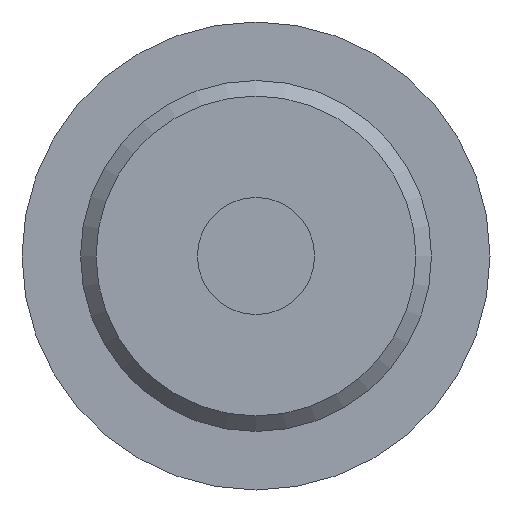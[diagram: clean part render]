
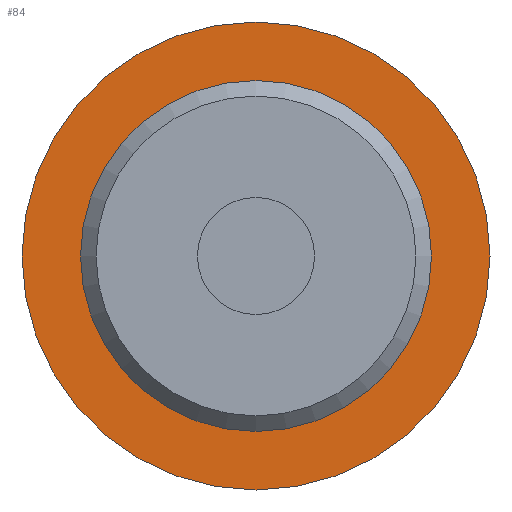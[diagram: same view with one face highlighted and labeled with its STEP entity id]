
A CAD part, front view. The second image highlights one B-rep face of the part: STEP entity #84.
In plain terms, the highlighted planar face has unit normal (0, -1, 0).
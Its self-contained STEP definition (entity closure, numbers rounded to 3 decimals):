
#84 = ADVANCED_FACE( '', ( #132, #133 ), #134, .F. );
#132 = FACE_BOUND( '', #220, .T. );
#133 = FACE_OUTER_BOUND( '', #221, .T. );
#134 = PLANE( '', #222 );
#220 = EDGE_LOOP( '', ( #338 ) );
#221 = EDGE_LOOP( '', ( #339 ) );
#222 = AXIS2_PLACEMENT_3D( '', #340, #341, #342 );
#338 = ORIENTED_EDGE( '', *, *, #520, .F. );
#339 = ORIENTED_EDGE( '', *, *, #521, .T. );
#340 = CARTESIAN_POINT( '', ( 12., 0., 0. ) );
#341 = DIRECTION( '', ( 0., 1., 0. ) );
#342 = DIRECTION( '', ( 0., 0., 1. ) );
#520 = EDGE_CURVE( '', #596, #596, #597, .T. );
#521 = EDGE_CURVE( '', #598, #598, #599, .T. );
#596 = VERTEX_POINT( '', #725 );
#597 = CIRCLE( '', #726, 9. );
#598 = VERTEX_POINT( '', #727 );
#599 = CIRCLE( '', #728, 12. );
#725 = CARTESIAN_POINT( '', ( 0., 0., -9. ) );
#726 = AXIS2_PLACEMENT_3D( '', #824, #825, #826 );
#727 = CARTESIAN_POINT( '', ( 0., 0., -12. ) );
#728 = AXIS2_PLACEMENT_3D( '', #827, #828, #829 );
#824 = CARTESIAN_POINT( '', ( 0., 0., 0. ) );
#825 = DIRECTION( '', ( 0., -1., 0. ) );
#826 = DIRECTION( '', ( 0., 0., -1. ) );
#827 = CARTESIAN_POINT( '', ( 0., 0., 0. ) );
#828 = DIRECTION( '', ( 0., -1., 0. ) );
#829 = DIRECTION( '', ( 0., 0., -1. ) );
